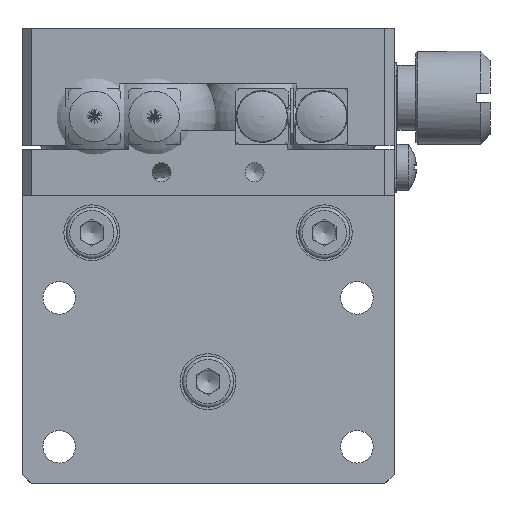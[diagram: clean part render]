
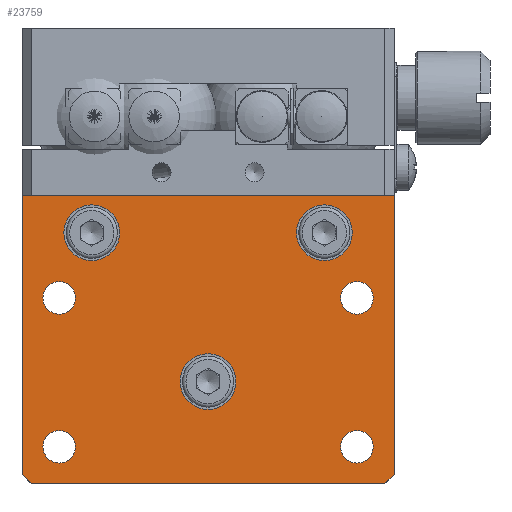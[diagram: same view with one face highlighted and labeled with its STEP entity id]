
A CAD part, front view. The second image highlights one B-rep face of the part: STEP entity #23759.
In plain terms, the highlighted planar face has unit normal (0, -1, 0).
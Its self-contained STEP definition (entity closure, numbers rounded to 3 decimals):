
#300 = CIRCLE ( 'NONE', #32127, 1.75 ) ;
#463 = FACE_OUTER_BOUND ( 'NONE', #73042, .T. ) ;
#682 = ORIENTED_EDGE ( 'NONE', *, *, #47247, .T. ) ;
#904 = LINE ( 'NONE', #1277, #43262 ) ;
#1172 = EDGE_LOOP ( 'NONE', ( #14691 ) ) ;
#1277 = CARTESIAN_POINT ( 'NONE',  ( 20., 0., -31. ) ) ;
#2403 = VERTEX_POINT ( 'NONE', #49072 ) ;
#3007 = DIRECTION ( 'NONE',  ( 0., 1., 0. ) ) ;
#3754 = VERTEX_POINT ( 'NONE', #44919 ) ;
#3997 = EDGE_LOOP ( 'NONE', ( #68876 ) ) ;
#4159 = AXIS2_PLACEMENT_3D ( 'NONE', #57696, #75351, #35896 ) ;
#4676 = DIRECTION ( 'NONE',  ( 0., -1., 0. ) ) ;
#4709 = FACE_BOUND ( 'NONE', #24235, .T. ) ;
#4813 = CARTESIAN_POINT ( 'NONE',  ( -12.5, 0., -4. ) ) ;
#6195 = LINE ( 'NONE', #40632, #22546 ) ;
#7204 = EDGE_LOOP ( 'NONE', ( #22909 ) ) ;
#7423 = CARTESIAN_POINT ( 'NONE',  ( 16., 0., -27. ) ) ;
#8388 = DIRECTION ( 'NONE',  ( 0., 0., 1. ) ) ;
#9319 = DIRECTION ( 'NONE',  ( 0., 0., -1. ) ) ;
#9369 = EDGE_CURVE ( 'NONE', #38437, #65215, #42807, .T. ) ;
#10145 = AXIS2_PLACEMENT_3D ( 'NONE', #39603, #51443, #34269 ) ;
#10692 = EDGE_CURVE ( 'NONE', #42478, #37225, #59207, .T. ) ;
#11420 = CARTESIAN_POINT ( 'NONE',  ( -20., 0., -31. ) ) ;
#11862 = DIRECTION ( 'NONE',  ( -1., 0., 0. ) ) ;
#13855 = CARTESIAN_POINT ( 'NONE',  ( -20., 0., -30. ) ) ;
#14691 = ORIENTED_EDGE ( 'NONE', *, *, #20839, .T. ) ;
#14996 = CARTESIAN_POINT ( 'NONE',  ( 19.5, 0., -30.5 ) ) ;
#15895 = ORIENTED_EDGE ( 'NONE', *, *, #65493, .F. ) ;
#15899 = VERTEX_POINT ( 'NONE', #50287 ) ;
#16617 = FACE_BOUND ( 'NONE', #3997, .T. ) ;
#16655 = VERTEX_POINT ( 'NONE', #64451 ) ;
#17347 = DIRECTION ( 'NONE',  ( 0., 0., -1. ) ) ;
#17757 = CIRCLE ( 'NONE', #58042, 3. ) ;
#18218 = ORIENTED_EDGE ( 'NONE', *, *, #10692, .F. ) ;
#18263 = VECTOR ( 'NONE', #74965, 1000. ) ;
#18907 = CIRCLE ( 'NONE', #71485, 1.75 ) ;
#18914 = DIRECTION ( 'NONE',  ( -1., 0., 0. ) ) ;
#19876 = CARTESIAN_POINT ( 'NONE',  ( 16., 0., -11. ) ) ;
#20574 = CARTESIAN_POINT ( 'NONE',  ( 0., 0., -20. ) ) ;
#20666 = CARTESIAN_POINT ( 'NONE',  ( 20., 0., 0. ) ) ;
#20839 = EDGE_CURVE ( 'NONE', #15899, #15899, #18907, .T. ) ;
#22546 = VECTOR ( 'NONE', #52847, 1000. ) ;
#22909 = ORIENTED_EDGE ( 'NONE', *, *, #48701, .F. ) ;
#23435 = DIRECTION ( 'NONE',  ( 0., -1., 0. ) ) ;
#23588 = CARTESIAN_POINT ( 'NONE',  ( 0., 0., -23. ) ) ;
#23759 = ADVANCED_FACE ( 'NONE', ( #46386, #33845, #69415, #57128, #16617, #63660, #4709, #463 ), #51755, .T. ) ;
#24235 = EDGE_LOOP ( 'NONE', ( #25364 ) ) ;
#24266 = DIRECTION ( 'NONE',  ( 0., 1., 0. ) ) ;
#24789 = ORIENTED_EDGE ( 'NONE', *, *, #45628, .T. ) ;
#24790 = CIRCLE ( 'NONE', #10145, 1.75 ) ;
#25335 = EDGE_CURVE ( 'NONE', #16655, #16655, #300, .T. ) ;
#25364 = ORIENTED_EDGE ( 'NONE', *, *, #25335, .T. ) ;
#27486 = VECTOR ( 'NONE', #11862, 1000. ) ;
#28103 = EDGE_CURVE ( 'NONE', #2403, #2403, #24790, .T. ) ;
#29349 = VERTEX_POINT ( 'NONE', #23588 ) ;
#29910 = ORIENTED_EDGE ( 'NONE', *, *, #41616, .F. ) ;
#30201 = CARTESIAN_POINT ( 'NONE',  ( 12.5, 0., -7. ) ) ;
#30560 = CARTESIAN_POINT ( 'NONE',  ( 19., 0., -31. ) ) ;
#30737 = ORIENTED_EDGE ( 'NONE', *, *, #44912, .T. ) ;
#30985 = DIRECTION ( 'NONE',  ( 0., 0., 1. ) ) ;
#30994 = CARTESIAN_POINT ( 'NONE',  ( 20., 0., -31. ) ) ;
#31744 = CARTESIAN_POINT ( 'NONE',  ( -12.5, 0., -7. ) ) ;
#32116 = CARTESIAN_POINT ( 'NONE',  ( -16., 0., -9.25 ) ) ;
#32127 = AXIS2_PLACEMENT_3D ( 'NONE', #7423, #24266, #41849 ) ;
#32232 = AXIS2_PLACEMENT_3D ( 'NONE', #61739, #4676, #9319 ) ;
#33187 = DIRECTION ( 'NONE',  ( 0., -1., 0. ) ) ;
#33845 = FACE_BOUND ( 'NONE', #7204, .T. ) ;
#34269 = DIRECTION ( 'NONE',  ( 0., 0., 1. ) ) ;
#35896 = DIRECTION ( 'NONE',  ( 0., 0., 1. ) ) ;
#35906 = CIRCLE ( 'NONE', #32232, 3. ) ;
#36577 = ORIENTED_EDGE ( 'NONE', *, *, #9369, .T. ) ;
#37225 = VERTEX_POINT ( 'NONE', #74927 ) ;
#38437 = VERTEX_POINT ( 'NONE', #41313 ) ;
#39603 = CARTESIAN_POINT ( 'NONE',  ( -16., 0., -27. ) ) ;
#40013 = DIRECTION ( 'NONE',  ( 0., 0., -1. ) ) ;
#40134 = VECTOR ( 'NONE', #8388, 1000. ) ;
#40400 = EDGE_CURVE ( 'NONE', #53098, #53098, #35906, .T. ) ;
#40632 = CARTESIAN_POINT ( 'NONE',  ( 0.5, 0., -50.5 ) ) ;
#41313 = CARTESIAN_POINT ( 'NONE',  ( 20., 0., -30. ) ) ;
#41616 = EDGE_CURVE ( 'NONE', #45033, #3754, #904, .T. ) ;
#41849 = DIRECTION ( 'NONE',  ( 0., 0., 1. ) ) ;
#42017 = VERTEX_POINT ( 'NONE', #32116 ) ;
#42478 = VERTEX_POINT ( 'NONE', #13855 ) ;
#42807 = LINE ( 'NONE', #30994, #40134 ) ;
#43262 = VECTOR ( 'NONE', #18914, 1000. ) ;
#43881 = DIRECTION ( 'NONE',  ( 0., -1., 0. ) ) ;
#44912 = EDGE_CURVE ( 'NONE', #42017, #42017, #47074, .T. ) ;
#44919 = CARTESIAN_POINT ( 'NONE',  ( -19., 0., -31. ) ) ;
#45033 = VERTEX_POINT ( 'NONE', #30560 ) ;
#45628 = EDGE_CURVE ( 'NONE', #45033, #38437, #53970, .T. ) ;
#45640 = CARTESIAN_POINT ( 'NONE',  ( 20., 0., -31. ) ) ;
#46264 = LINE ( 'NONE', #65061, #27486 ) ;
#46386 = FACE_BOUND ( 'NONE', #65775, .T. ) ;
#46690 = EDGE_LOOP ( 'NONE', ( #15895 ) ) ;
#47074 = CIRCLE ( 'NONE', #4159, 1.75 ) ;
#47247 = EDGE_CURVE ( 'NONE', #65215, #37225, #46264, .T. ) ;
#48701 = EDGE_CURVE ( 'NONE', #68048, #68048, #17757, .T. ) ;
#48780 = ORIENTED_EDGE ( 'NONE', *, *, #71614, .T. ) ;
#49072 = CARTESIAN_POINT ( 'NONE',  ( -16., 0., -25.25 ) ) ;
#49252 = ORIENTED_EDGE ( 'NONE', *, *, #40400, .F. ) ;
#50287 = CARTESIAN_POINT ( 'NONE',  ( 16., 0., -9.25 ) ) ;
#51443 = DIRECTION ( 'NONE',  ( 0., 1., 0. ) ) ;
#51755 = PLANE ( 'NONE',  #52692 ) ;
#52692 = AXIS2_PLACEMENT_3D ( 'NONE', #45640, #23435, #17347 ) ;
#52847 = DIRECTION ( 'NONE',  ( 0.707, 0., -0.707 ) ) ;
#53078 = EDGE_LOOP ( 'NONE', ( #30737 ) ) ;
#53098 = VERTEX_POINT ( 'NONE', #30201 ) ;
#53970 = LINE ( 'NONE', #14996, #60442 ) ;
#55733 = DIRECTION ( 'NONE',  ( 0., 0., -1. ) ) ;
#57128 = FACE_BOUND ( 'NONE', #53078, .T. ) ;
#57696 = CARTESIAN_POINT ( 'NONE',  ( -16., 0., -11. ) ) ;
#58042 = AXIS2_PLACEMENT_3D ( 'NONE', #4813, #33187, #40013 ) ;
#58939 = CIRCLE ( 'NONE', #66310, 3. ) ;
#59207 = LINE ( 'NONE', #11420, #18263 ) ;
#60442 = VECTOR ( 'NONE', #60902, 1000. ) ;
#60902 = DIRECTION ( 'NONE',  ( 0.707, 0., 0.707 ) ) ;
#61739 = CARTESIAN_POINT ( 'NONE',  ( 12.5, 0., -4. ) ) ;
#63660 = FACE_BOUND ( 'NONE', #1172, .T. ) ;
#64451 = CARTESIAN_POINT ( 'NONE',  ( 16., 0., -25.25 ) ) ;
#65061 = CARTESIAN_POINT ( 'NONE',  ( 20., 0., 0. ) ) ;
#65215 = VERTEX_POINT ( 'NONE', #20666 ) ;
#65493 = EDGE_CURVE ( 'NONE', #29349, #29349, #58939, .T. ) ;
#65775 = EDGE_LOOP ( 'NONE', ( #49252 ) ) ;
#66310 = AXIS2_PLACEMENT_3D ( 'NONE', #20574, #43881, #55733 ) ;
#68048 = VERTEX_POINT ( 'NONE', #31744 ) ;
#68876 = ORIENTED_EDGE ( 'NONE', *, *, #28103, .T. ) ;
#69415 = FACE_BOUND ( 'NONE', #46690, .T. ) ;
#71485 = AXIS2_PLACEMENT_3D ( 'NONE', #19876, #3007, #30985 ) ;
#71614 = EDGE_CURVE ( 'NONE', #42478, #3754, #6195, .T. ) ;
#73042 = EDGE_LOOP ( 'NONE', ( #18218, #48780, #29910, #24789, #36577, #682 ) ) ;
#74927 = CARTESIAN_POINT ( 'NONE',  ( -20., 0., 0. ) ) ;
#74965 = DIRECTION ( 'NONE',  ( 0., 0., 1. ) ) ;
#75351 = DIRECTION ( 'NONE',  ( 0., 1., 0. ) ) ;
